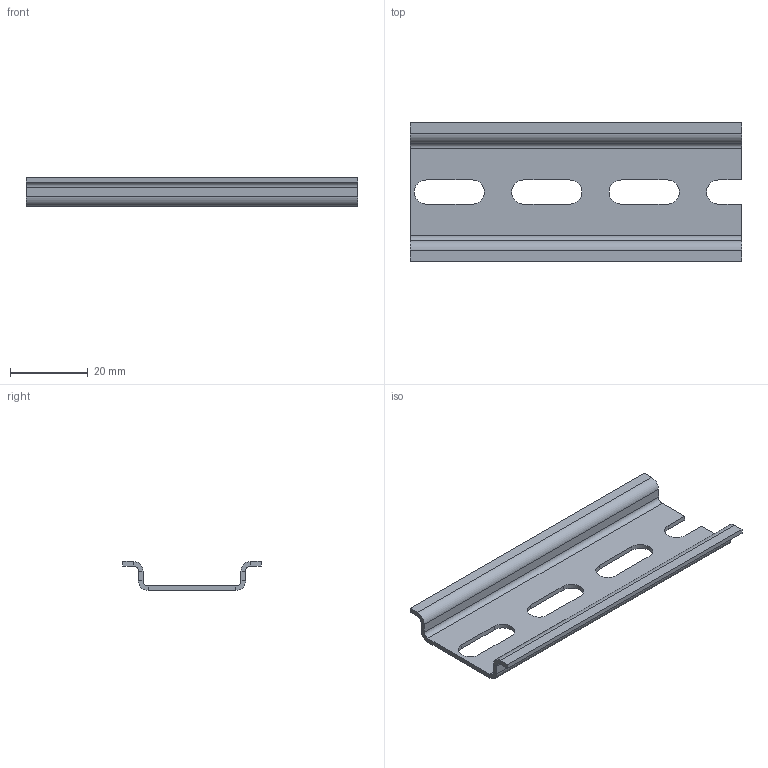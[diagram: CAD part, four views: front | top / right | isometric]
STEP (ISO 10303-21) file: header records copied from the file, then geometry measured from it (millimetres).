
FILE_DESCRIPTION((''),'2;1');
FILE_NAME('PK-SEQ-SK-A-B-DIN-BRKT','2006-12-19T',('summne01'),(''),'PRO/ENGINEER BY PARAMETRIC TECHNOLOGY CORPORATION, 2006320','PRO/ENGINEER BY PARAMETRIC TECHNOLOGY CORPORATION, 2006320','');
FILE_SCHEMA(('CONFIG_CONTROL_DESIGN'));
Length unit declared in the file: millimetre
Products named in the file (1): PK-SEQ-SK-A-B-DIN-BRKT
Bounding box: 85 x 35.5 x 7.45 mm (x, y, z)
Volume: 4129.2 mm3; surface area: 7366.9 mm2
Topology: 1 solids, 1 shells, 54 faces, 124 edges, 72 vertices
Faces by surface type: plane 39, cylinder 15
Entity records: 1532 total; most frequent: DIRECTION 262, CARTESIAN_POINT 250, ORIENTED_EDGE 248, EDGE_CURVE 124, VECTOR 94, LINE 94, AXIS2_PLACEMENT_3D 84, VERTEX_POINT 72
